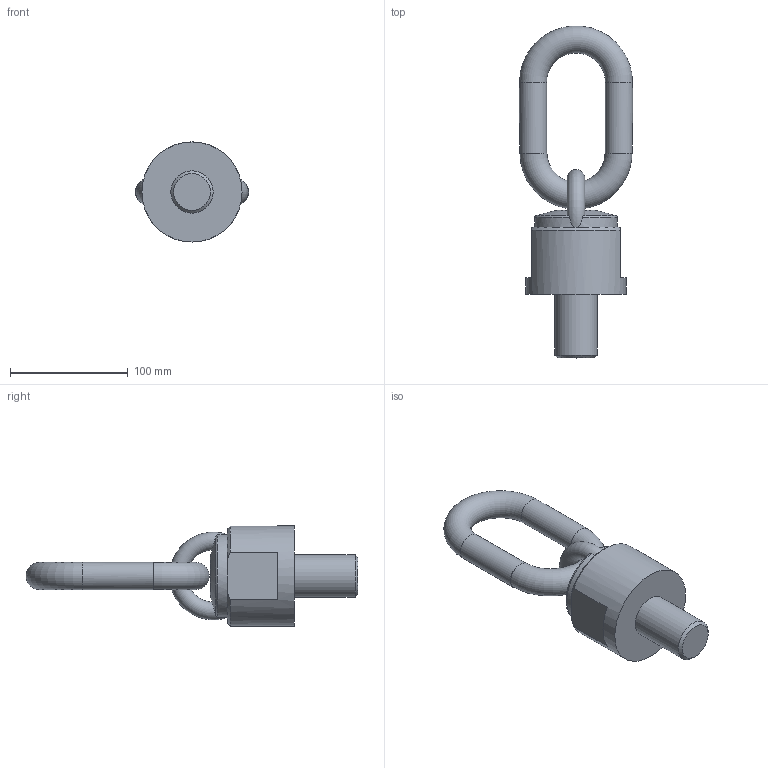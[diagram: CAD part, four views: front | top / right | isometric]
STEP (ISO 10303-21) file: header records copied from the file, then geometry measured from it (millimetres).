
FILE_DESCRIPTION( ( 'STEP AP203' ), '1' );
FILE_NAME( 'p:/temp/worker_5/temp/app_47_0201906261620546410708110e898ce_000000_00_00_000000/format_3/C8000803654.stp', '2019-06-26T14:20:57', ( '' ), ( '' ), ' ', 'PARTsolutions', ' ' );
FILE_SCHEMA( ( 'CONFIG_CONTROL_DESIGN' ) );
Length unit declared in the file: millimetre
Products named in the file (1): _C8000803654
Bounding box: 96 x 281.9 x 85 mm (x, y, z)
Volume: 574598.7 mm3; surface area: 62855.1 mm2
Topology: 1 solids, 1 shells, 27 faces, 66 edges, 41 vertices
Faces by surface type: plane 12, cylinder 6, torus 5, cone 4
Full cylindrical faces by diameter (mm): 23 x2, 36 x1, 85 x1
Entity records: 1092 total; most frequent: CARTESIAN_POINT 482, DIRECTION 118, ORIENTED_EDGE 104, AXIS2_PLACEMENT_3D 55, EDGE_CURVE 52, EDGE_LOOP 40, VERTEX_POINT 37, FACE_OUTER_BOUND 34
